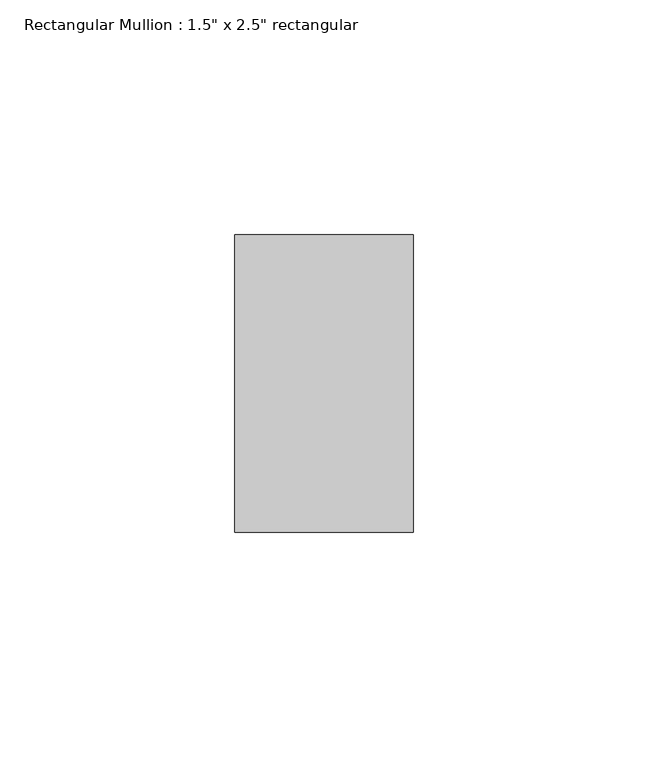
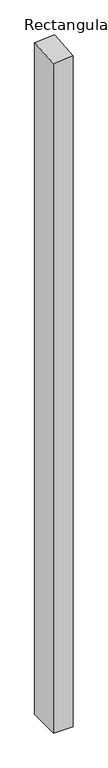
"""IFC4 building model written with IfcOpenShell, lengths in millimetres: member geometry."""

import ifcopenshell
import ifcopenshell.guid

model = None  # the IFC model being written
_history = None  # IfcOwnerHistory: only IFC2X3 demands one
_inside = {}  # id of a spatial element -> (the spatial element, [elements in it])
_under = {}  # id of a project, library or spatial element -> (it, [spatial elements below it])
_declared = {}  # id of a project -> (the project, [libraries it declares])
_typed = {}  # id of a type object -> (the type object, [elements of that type])
_made_of = {}  # id of a material, layer set ... -> (it, [elements and type objects made of it])


def new_model(schema):
    """Start an empty IFC model of exactly this schema.

    Asked for "IFC4X3", IfcOpenShell would pick the latest addendum, in which some entities
    have other attributes; the version numbers below select the first issue.
    IFC2X3 requires an IfcOwnerHistory on every rooted entity: one is made here for all.
    """
    global model, _history
    if schema == "IFC4X3":
        model = ifcopenshell.file(schema_version=(4, 3, 0, 0))
    else:
        model = ifcopenshell.file(schema=schema)
    _inside.clear()
    _under.clear()
    _declared.clear()
    _typed.clear()
    _made_of.clear()
    _history = None
    if model.schema == "IFC2X3":
        org = make("IfcOrganization", Name="unknown")
        user = make(
            "IfcPersonAndOrganization",
            ThePerson=make("IfcPerson", FamilyName="unknown"),
            TheOrganization=org,
        )
        app = make(
            "IfcApplication",
            ApplicationDeveloper=org,
            Version="unknown",
            ApplicationFullName="unknown",
            ApplicationIdentifier="unknown",
        )
        _history = make(
            "IfcOwnerHistory",
            OwningUser=user,
            OwningApplication=app,
            ChangeAction="ADDED",
            CreationDate=0,
        )
    return model


def make(cls, **values):
    """One entity of the class cls with the attributes given. An attribute that is None is left unset."""
    return model.create_entity(
        cls, **{name: value for name, value in values.items() if value is not None}
    )


def rooted(cls, **values):
    """An entity with a GlobalId (a new one), such as an element, a storey or a relation."""
    return make(cls, GlobalId=ifcopenshell.guid.new(), OwnerHistory=_history, **values)


def si_unit(unit_type, name, prefix=None):
    """IfcSIUnit, for example si_unit("LENGTHUNIT", "METRE", prefix="MILLI")."""
    return make("IfcSIUnit", UnitType=unit_type, Prefix=prefix, Name=name)


def assignment(units):
    """IfcUnitAssignment: the units of a project."""
    return None if units is None else make("IfcUnitAssignment", Units=units)


def point(xyz):
    """IfcCartesianPoint."""
    return None if xyz is None else make("IfcCartesianPoint", Coordinates=xyz)


def direction(xyz):
    """IfcDirection."""
    return None if xyz is None else make("IfcDirection", DirectionRatios=xyz)


def frame(location, z_axis=None, x_axis=None):
    """IfcAxis2Placement3D, a coordinate frame: its origin and axes. An axis left out is left unset."""
    return make(
        "IfcAxis2Placement3D",
        Location=point(location),
        Axis=direction(z_axis),
        RefDirection=direction(x_axis),
    )


def origin():
    """The frame at (0, 0, 0) with its axes left unset."""
    return frame((0.0, 0.0, 0.0))


def place(relative_to, where):
    """IfcLocalPlacement: puts the frame where relative to a parent placement (None: the world)."""
    return make(
        "IfcLocalPlacement", PlacementRelTo=relative_to, RelativePlacement=where
    )


def context(
    kind, dimensions, precision=None, world=None, true_north=None, identifier=None
):
    """IfcGeometricRepresentationContext, for example the 3D "Model" context."""
    return make(
        "IfcGeometricRepresentationContext",
        ContextIdentifier=identifier,
        ContextType=kind,
        CoordinateSpaceDimension=dimensions,
        Precision=precision,
        WorldCoordinateSystem=world,
        TrueNorth=true_north,
    )


def project(units=None, contexts=None):
    """IfcProject with its units and contexts."""
    return rooted(
        "IfcProject",
        Name="project",
        RepresentationContexts=contexts,
        UnitsInContext=assignment(units),
    )


def spatial(cls, under=None, at=None, **own):
    """A site, building, storey or space (cls), placed at a placement, below another one or the project."""
    s = rooted(cls, ObjectPlacement=at, **own)
    if under is not None:
        _under.setdefault(under.id(), (under, []))[1].append(s)
    return s


def faces_of(points, faces, orient=None, outer=None):
    """IfcFace entities. A face is a list of loops; a loop is a list of indices into points, from 0.

    orient and outer hold one flag for each loop. By default every Orientation is true, the
    first loop of a face is its IfcFaceOuterBound and the others are IfcFaceBound.
    """
    made = []
    for i, loops in enumerate(faces):
        bounds = []
        for j, loop in enumerate(loops):
            is_outer = j == 0 if outer is None else outer[i][j]
            bounds.append(
                make(
                    "IfcFaceOuterBound" if is_outer else "IfcFaceBound",
                    Bound=make("IfcPolyLoop", Polygon=[points[k] for k in loop]),
                    Orientation=True if orient is None else orient[i][j],
                )
            )
        made.append(make("IfcFace", Bounds=bounds))
    return made


def faceted_brep(points, faces, orient=None, outer=None, voids=None):
    """IfcFacetedBrep: a solid bounded by flat faces; with voids (closed shells), ...WithVoids."""
    shared = [point(p) for p in points]
    hull = make("IfcClosedShell", CfsFaces=faces_of(shared, faces, orient, outer))
    if voids is None:
        return make("IfcFacetedBrep", Outer=hull)
    return make(
        "IfcFacetedBrepWithVoids",
        Outer=hull,
        Voids=[
            make(cls, CfsFaces=faces_of(shared, fs, o, b)) for cls, fs, o, b in voids
        ],
    )


def shape(context_of_items, identifier, shape_type, items):
    """IfcShapeRepresentation: the items that make up one representation, for example the "Body"."""
    return make(
        "IfcShapeRepresentation",
        ContextOfItems=context_of_items,
        RepresentationIdentifier=identifier,
        RepresentationType=shape_type,
        Items=items,
    )


def source(mapping_origin, context_of_items, identifier, shape_type, items):
    """IfcRepresentationMap: a shape defined once, which mapped items show again and again."""
    return make(
        "IfcRepresentationMap",
        MappingOrigin=mapping_origin,
        MappedRepresentation=shape(context_of_items, identifier, shape_type, items),
    )


def transform(
    local_origin,
    x_axis=None,
    y_axis=None,
    z_axis=None,
    scale=None,
    scale2=None,
    scale3=None,
    uniform=True,
):
    """IfcCartesianTransformationOperator3D, or its non-uniform kind. x_axis, y_axis, z_axis: its Axis1, 2, 3."""
    if uniform:
        return make(
            "IfcCartesianTransformationOperator3D",
            Axis1=direction(x_axis),
            Axis2=direction(y_axis),
            LocalOrigin=point(local_origin),
            Scale=scale,
            Axis3=direction(z_axis),
        )
    return make(
        "IfcCartesianTransformationOperator3DnonUniform",
        Axis1=direction(x_axis),
        Axis2=direction(y_axis),
        LocalOrigin=point(local_origin),
        Scale=scale,
        Axis3=direction(z_axis),
        Scale2=scale2,
        Scale3=scale3,
    )


def mapped(mapping_source, mapping_target):
    """IfcMappedItem: shows the shape of a source again, moved by a transform."""
    return make(
        "IfcMappedItem", MappingSource=mapping_source, MappingTarget=mapping_target
    )


def made_of(thing, what):
    """Note that an element or type object is made of a material, layer set ...; save() writes the relation."""
    if what is not None:
        _made_of.setdefault(what.id(), (what, []))[1].append(thing)
    return thing


def element(
    cls,
    number,
    at=None,
    inside=None,
    cuts=None,
    type_object=None,
    material=None,
    context=None,
    identifier="Body",
    shape_type=None,
    held_by="IfcProductDefinitionShape",
    body=None,
    shapes=None,
    **own,
):
    """One element of the class cls, such as IfcWall. Its Tag is "e" and its number.

    at: its placement. inside: the storey or other place that contains it. cuts: it is an
    opening in that element (IfcRelVoidsElement). A single representation is given by context,
    identifier, shape_type and body (its items); several are given by shapes. held_by: the class
    of the entity that holds the representations. save() writes the other relations.
    """
    e = rooted(cls, Tag="e%d" % number, ObjectPlacement=at, **own)
    if body is not None:
        shapes = [shape(context, identifier, shape_type, body)]
    if shapes is not None:
        e.Representation = make(held_by, Representations=shapes)
    if inside is not None:
        _inside.setdefault(inside.id(), (inside, []))[1].append(e)
    if cuts is not None:
        rooted(
            "IfcRelVoidsElement", RelatingBuildingElement=cuts, RelatedOpeningElement=e
        )
    if type_object is not None:
        _typed.setdefault(type_object.id(), (type_object, []))[1].append(e)
    return made_of(e, material)


def aggregate(whole, parts):
    """IfcRelAggregates: a whole, such as a stair, and the parts it consists of."""
    return rooted("IfcRelAggregates", RelatingObject=whole, RelatedObjects=parts)


def save(model, path):
    """Write the relations noted so far, then the file.

    IfcRelAggregates (storeys below a building ...), IfcRelContainedInSpatialStructure (elements
    in a storey), IfcRelDefinesByType, IfcRelAssociatesMaterial and IfcRelDeclares: one each for
    every whole, place, type object, material and project.
    """
    for whole, parts in _under.values():
        aggregate(whole, parts)
    for where, things in _inside.values():
        rooted(
            "IfcRelContainedInSpatialStructure",
            RelatedElements=things,
            RelatingStructure=where,
        )
    for kind, things in _typed.values():
        rooted("IfcRelDefinesByType", RelatedObjects=things, RelatingType=kind)
    for what, things in _made_of.values():
        rooted("IfcRelAssociatesMaterial", RelatedObjects=things, RelatingMaterial=what)
    for by, libraries in _declared.values():
        rooted("IfcRelDeclares", RelatingContext=by, RelatedDefinitions=libraries)
    model.write(path)


def member_d7561c94(model_context):
    return source(origin(), model_context, "Body", "Brep", [
        faceted_brep([(19.05, 31.75, -1376.9054009), (19.05, -31.75, -1376.9054009), (-19.05, -31.75, -1376.9054009), (-19.05, 31.75, -1376.9054009), (-19.05, 31.75, 0.8491015), (19.05, 31.75, 3.4255331), (-19.05, -31.75, -3.4255331), (19.05, -31.75, -0.8491015)], [[[0, 1, 2, 3]], [[4, 5, 0, 3]], [[6, 4, 3, 2]], [[7, 6, 2, 1]], [[5, 7, 1, 0]], [[5, 4, 6, 7]]]),
    ])


if __name__ == "__main__":
    model = new_model("IFC4")
    model_context = context("Model", 3, world=origin())
    ifc_project = project(units=[si_unit("LENGTHUNIT", "METRE", prefix="MILLI")], contexts=[model_context])
    site = spatial("IfcSite", under=ifc_project)
    building = spatial("IfcBuilding", under=site)
    placement = place(None, origin())
    member_shape = member_d7561c94(model_context)
    element("IfcMember", 1, ObjectType="Rectangular Mullion : 1.5\" x 2.5\" rectangular", at=placement, inside=building, context=model_context, shape_type="MappedRepresentation", body=[
        mapped(member_shape, transform((0.0, 0.0, 0.0), x_axis=(1.0, 0.0, 0.0), y_axis=(0.0, 1.0, 0.0), z_axis=(0.0, 0.0, 1.0))),
    ])
    save(model, "model.ifc")
